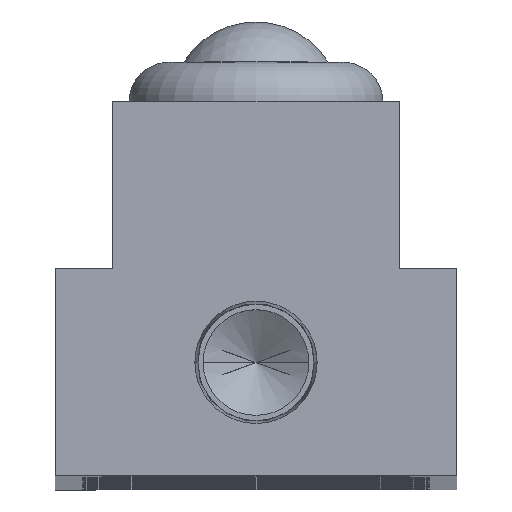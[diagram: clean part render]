
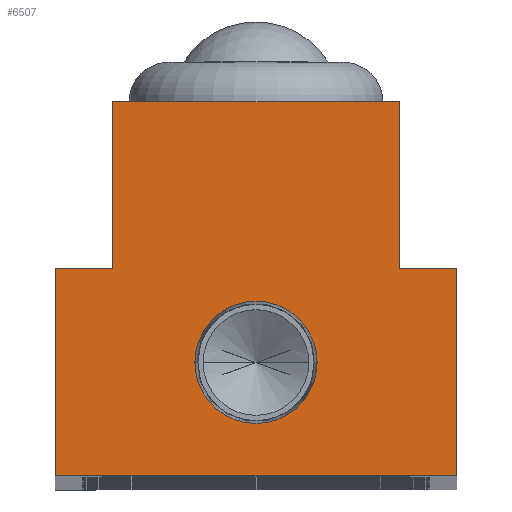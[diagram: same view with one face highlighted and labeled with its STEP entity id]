
A CAD part, top view. The second image highlights one B-rep face of the part: STEP entity #6507.
In plain terms, the highlighted planar face has unit normal (0, 0, 1).
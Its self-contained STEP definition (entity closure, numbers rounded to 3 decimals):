
#81 = EDGE_CURVE ( 'NONE', #13512, #4521, #13313, .T. ) ;
#277 = ORIENTED_EDGE ( 'NONE', *, *, #7813, .T. ) ;
#320 = ORIENTED_EDGE ( 'NONE', *, *, #1411, .T. ) ;
#325 = VECTOR ( 'NONE', #1703, 1000. ) ;
#478 = DIRECTION ( 'NONE',  ( 0., 0., 1. ) ) ;
#819 = ORIENTED_EDGE ( 'NONE', *, *, #14815, .T. ) ;
#857 = LINE ( 'NONE', #5109, #13716 ) ;
#882 = CARTESIAN_POINT ( 'NONE',  ( 15., 0., 0. ) ) ;
#1411 = EDGE_CURVE ( 'NONE', #4867, #12988, #15273, .T. ) ;
#1687 = ORIENTED_EDGE ( 'NONE', *, *, #8685, .F. ) ;
#1703 = DIRECTION ( 'NONE',  ( -1., 0., 0. ) ) ;
#1708 = EDGE_CURVE ( 'NONE', #12988, #4414, #9657, .T. ) ;
#1798 = EDGE_CURVE ( 'NONE', #3331, #10593, #15260, .T. ) ;
#1887 = AXIS2_PLACEMENT_3D ( 'NONE', #8186, #478, #9458 ) ;
#1925 = CARTESIAN_POINT ( 'NONE',  ( -10.7, 28., 0. ) ) ;
#1998 = CARTESIAN_POINT ( 'NONE',  ( 0., 0., 0. ) ) ;
#2354 = CARTESIAN_POINT ( 'NONE',  ( 15., 15.5, 0. ) ) ;
#2396 = VECTOR ( 'NONE', #15713, 1000. ) ;
#2830 = VECTOR ( 'NONE', #13304, 1000. ) ;
#3119 = CARTESIAN_POINT ( 'NONE',  ( -10.7, 28., 0. ) ) ;
#3290 = DIRECTION ( 'NONE',  ( 0., 0., 1. ) ) ;
#3331 = VERTEX_POINT ( 'NONE', #3119 ) ;
#3755 = LINE ( 'NONE', #6824, #325 ) ;
#3960 = DIRECTION ( 'NONE',  ( 0., 0., 1. ) ) ;
#4235 = EDGE_CURVE ( 'NONE', #8907, #4867, #14706, .T. ) ;
#4279 = VECTOR ( 'NONE', #12319, 1000. ) ;
#4309 = CARTESIAN_POINT ( 'NONE',  ( -10.7, 28., 0. ) ) ;
#4414 = VERTEX_POINT ( 'NONE', #2354 ) ;
#4521 = VERTEX_POINT ( 'NONE', #15351 ) ;
#4867 = VERTEX_POINT ( 'NONE', #9585 ) ;
#5036 = DIRECTION ( 'NONE',  ( 0., 1., 0. ) ) ;
#5109 = CARTESIAN_POINT ( 'NONE',  ( 10.7, 15.5, 0. ) ) ;
#5662 = CARTESIAN_POINT ( 'NONE',  ( 15., 0., 0. ) ) ;
#5808 = EDGE_CURVE ( 'NONE', #8688, #3331, #12626, .T. ) ;
#6480 = CARTESIAN_POINT ( 'NONE',  ( 10.7, 28., 0. ) ) ;
#6507 = ADVANCED_FACE ( 'NONE', ( #13199, #16608 ), #8390, .T. ) ;
#6611 = ORIENTED_EDGE ( 'NONE', *, *, #4235, .T. ) ;
#6824 = CARTESIAN_POINT ( 'NONE',  ( -10.7, 15.5, 0. ) ) ;
#6826 = VERTEX_POINT ( 'NONE', #14092 ) ;
#6983 = DIRECTION ( 'NONE',  ( 0., -1., 0. ) ) ;
#7222 = CARTESIAN_POINT ( 'NONE',  ( 15., 0., 0. ) ) ;
#7679 = LINE ( 'NONE', #12701, #14504 ) ;
#7813 = EDGE_CURVE ( 'NONE', #4414, #6826, #857, .T. ) ;
#8186 = CARTESIAN_POINT ( 'NONE',  ( 0., 8.5, 0. ) ) ;
#8390 = PLANE ( 'NONE',  #11553 ) ;
#8685 = EDGE_CURVE ( 'NONE', #4521, #13512, #16085, .T. ) ;
#8688 = VERTEX_POINT ( 'NONE', #6480 ) ;
#8907 = VERTEX_POINT ( 'NONE', #12071 ) ;
#9330 = ORIENTED_EDGE ( 'NONE', *, *, #1798, .T. ) ;
#9458 = DIRECTION ( 'NONE',  ( 1., 0., 0. ) ) ;
#9585 = CARTESIAN_POINT ( 'NONE',  ( -15., 0., 0. ) ) ;
#9657 = LINE ( 'NONE', #5662, #2830 ) ;
#10593 = VERTEX_POINT ( 'NONE', #15809 ) ;
#10749 = ORIENTED_EDGE ( 'NONE', *, *, #5808, .T. ) ;
#11025 = CARTESIAN_POINT ( 'NONE',  ( -4.574, 8.5, 0. ) ) ;
#11284 = VECTOR ( 'NONE', #6983, 1000. ) ;
#11553 = AXIS2_PLACEMENT_3D ( 'NONE', #1998, #3290, #12258 ) ;
#11627 = CARTESIAN_POINT ( 'NONE',  ( 0., 8.5, 0. ) ) ;
#12071 = CARTESIAN_POINT ( 'NONE',  ( -15., 15.5, 0. ) ) ;
#12130 = CARTESIAN_POINT ( 'NONE',  ( -15., 0., 0. ) ) ;
#12176 = EDGE_LOOP ( 'NONE', ( #819, #10749, #9330, #15611, #6611, #320, #13156, #277 ) ) ;
#12201 = EDGE_CURVE ( 'NONE', #10593, #8907, #3755, .T. ) ;
#12258 = DIRECTION ( 'NONE',  ( 1., 0., 0. ) ) ;
#12319 = DIRECTION ( 'NONE',  ( 1., 0., 0. ) ) ;
#12626 = LINE ( 'NONE', #4309, #2396 ) ;
#12701 = CARTESIAN_POINT ( 'NONE',  ( 10.7, 28., 0. ) ) ;
#12912 = DIRECTION ( 'NONE',  ( 1., 0., 0. ) ) ;
#12988 = VERTEX_POINT ( 'NONE', #882 ) ;
#13156 = ORIENTED_EDGE ( 'NONE', *, *, #1708, .T. ) ;
#13199 = FACE_BOUND ( 'NONE', #14766, .T. ) ;
#13304 = DIRECTION ( 'NONE',  ( 0., 1., 0. ) ) ;
#13313 = CIRCLE ( 'NONE', #1887, 4.574 ) ;
#13512 = VERTEX_POINT ( 'NONE', #11025 ) ;
#13716 = VECTOR ( 'NONE', #15340, 1000. ) ;
#14092 = CARTESIAN_POINT ( 'NONE',  ( 10.7, 15.5, 0. ) ) ;
#14504 = VECTOR ( 'NONE', #5036, 1000. ) ;
#14587 = ORIENTED_EDGE ( 'NONE', *, *, #81, .F. ) ;
#14706 = LINE ( 'NONE', #12130, #11284 ) ;
#14766 = EDGE_LOOP ( 'NONE', ( #1687, #14587 ) ) ;
#14815 = EDGE_CURVE ( 'NONE', #6826, #8688, #7679, .T. ) ;
#14890 = VECTOR ( 'NONE', #16047, 1000. ) ;
#15260 = LINE ( 'NONE', #1925, #14890 ) ;
#15273 = LINE ( 'NONE', #7222, #4279 ) ;
#15340 = DIRECTION ( 'NONE',  ( -1., 0., 0. ) ) ;
#15351 = CARTESIAN_POINT ( 'NONE',  ( 4.574, 8.5, 0. ) ) ;
#15611 = ORIENTED_EDGE ( 'NONE', *, *, #12201, .T. ) ;
#15713 = DIRECTION ( 'NONE',  ( -1., 0., 0. ) ) ;
#15809 = CARTESIAN_POINT ( 'NONE',  ( -10.7, 15.5, 0. ) ) ;
#15903 = AXIS2_PLACEMENT_3D ( 'NONE', #11627, #3960, #12912 ) ;
#16047 = DIRECTION ( 'NONE',  ( 0., -1., 0. ) ) ;
#16085 = CIRCLE ( 'NONE', #15903, 4.574 ) ;
#16608 = FACE_OUTER_BOUND ( 'NONE', #12176, .T. ) ;
